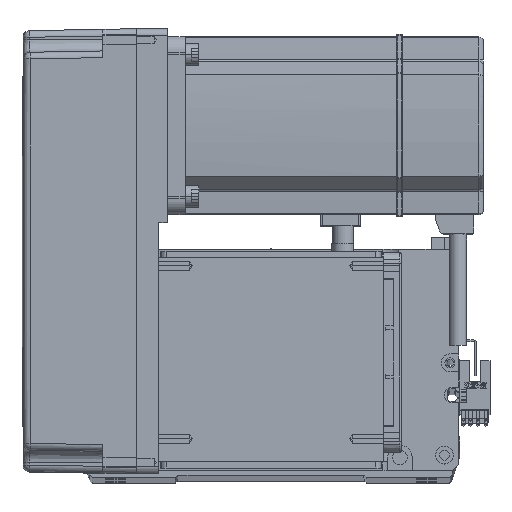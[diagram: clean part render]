
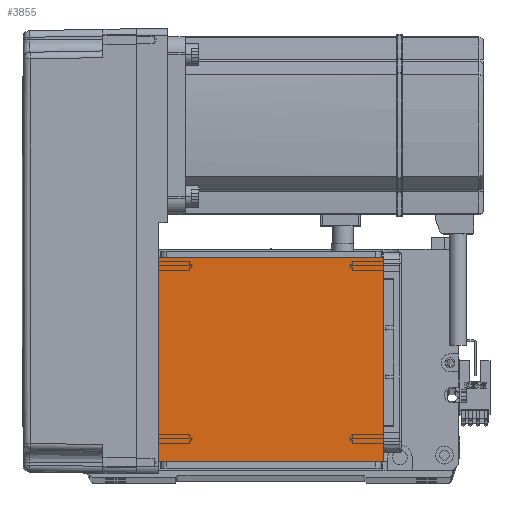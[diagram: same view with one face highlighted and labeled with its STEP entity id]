
A CAD part, top view. The second image highlights one B-rep face of the part: STEP entity #3855.
In plain terms, the highlighted planar face has unit normal (0, 0, 1).
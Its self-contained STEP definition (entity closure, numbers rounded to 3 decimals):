
#3855 = ADVANCED_FACE ( 'NONE', ( #35189 ), #45900, .T. ) ;
#5897 = LINE ( 'NONE', #40988, #56256 ) ;
#6307 = ORIENTED_EDGE ( 'NONE', *, *, #50711, .T. ) ;
#7197 = CARTESIAN_POINT ( 'NONE',  ( -50.5, 111.5, 115. ) ) ;
#9213 = LINE ( 'NONE', #10997, #44978 ) ;
#10997 = CARTESIAN_POINT ( 'NONE',  ( -50.5, 122., 115. ) ) ;
#12310 = ORIENTED_EDGE ( 'NONE', *, *, #31827, .T. ) ;
#13033 = CARTESIAN_POINT ( 'NONE',  ( -50.5, 20., 115. ) ) ;
#16134 = VECTOR ( 'NONE', #45377, 1000. ) ;
#17935 = DIRECTION ( 'NONE',  ( -1., 0., 0. ) ) ;
#17972 = DIRECTION ( 'NONE',  ( 0., 0., 1. ) ) ;
#18293 = EDGE_CURVE ( 'NONE', #23090, #46647, #52643, .T. ) ;
#19915 = CARTESIAN_POINT ( 'NONE',  ( 50.5, 20., 115. ) ) ;
#22622 = CARTESIAN_POINT ( 'NONE',  ( 50.5, 122., 115. ) ) ;
#23090 = VERTEX_POINT ( 'NONE', #7197 ) ;
#29323 = ORIENTED_EDGE ( 'NONE', *, *, #18293, .F. ) ;
#31827 = EDGE_CURVE ( 'NONE', #23090, #44027, #9213, .T. ) ;
#35189 = FACE_OUTER_BOUND ( 'NONE', #45739, .T. ) ;
#35629 = CARTESIAN_POINT ( 'NONE',  ( 50.5, 111.5, 115. ) ) ;
#37121 = CARTESIAN_POINT ( 'NONE',  ( 0., 0., 115. ) ) ;
#38151 = ORIENTED_EDGE ( 'NONE', *, *, #56206, .F. ) ;
#40988 = CARTESIAN_POINT ( 'NONE',  ( -70.004, 20., 115. ) ) ;
#41326 = VERTEX_POINT ( 'NONE', #19915 ) ;
#44027 = VERTEX_POINT ( 'NONE', #13033 ) ;
#44978 = VECTOR ( 'NONE', #47516, 1000. ) ;
#45377 = DIRECTION ( 'NONE',  ( 1., 0., 0. ) ) ;
#45739 = EDGE_LOOP ( 'NONE', ( #29323, #12310, #38151, #6307 ) ) ;
#45900 = PLANE ( 'NONE',  #53894 ) ;
#46647 = VERTEX_POINT ( 'NONE', #35629 ) ;
#47516 = DIRECTION ( 'NONE',  ( 0., -1., 0. ) ) ;
#50439 = LINE ( 'NONE', #22622, #56963 ) ;
#50711 = EDGE_CURVE ( 'NONE', #41326, #46647, #50439, .T. ) ;
#52643 = LINE ( 'NONE', #54354, #16134 ) ;
#53894 = AXIS2_PLACEMENT_3D ( 'NONE', #37121, #17972, #55468 ) ;
#54354 = CARTESIAN_POINT ( 'NONE',  ( -70.004, 111.5, 115. ) ) ;
#55468 = DIRECTION ( 'NONE',  ( 1., 0., 0. ) ) ;
#56206 = EDGE_CURVE ( 'NONE', #41326, #44027, #5897, .T. ) ;
#56256 = VECTOR ( 'NONE', #17935, 1000. ) ;
#56963 = VECTOR ( 'NONE', #59879, 1000. ) ;
#59879 = DIRECTION ( 'NONE',  ( 0., 1., 0. ) ) ;
